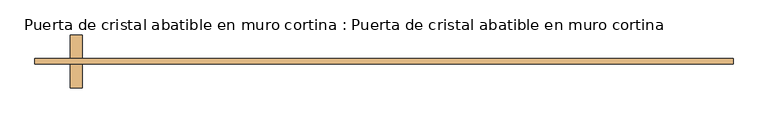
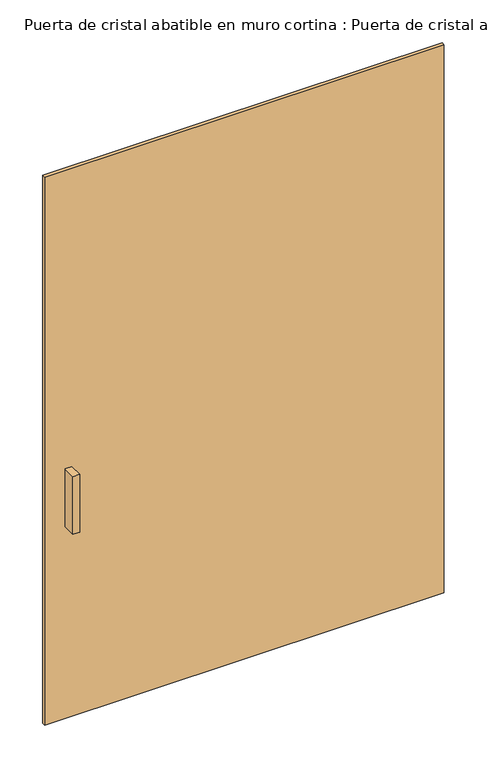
"""IFC4 building model written with IfcOpenShell, lengths in millimetres: door geometry, Puerta de cristal abatible en muro cortina : Puerta de cristal abatible en muro cortina."""

from ifc_helpers import new_model, si_unit, frame, origin, origin_with_axes, place, context, project, spatial, polyline, outline, extrude, source, transform, mapped, element, save


def puerta_de_cristal_abatible_en_muro_cortina_puerta_de_cristal_e47abdd4(model_context):
    return source(origin(), model_context, "Body", "SweptSolid", [
        extrude(outline(polyline([(-648.4, -12.5), (-673.8, -12.5), (-673.8, 38.3), (-648.4, 38.3), (-648.4, -12.5)])), frame((0.0, 0.0, 762.0), z_axis=(0.0, 0.0, 1.0), x_axis=(1.0, 0.0, 0.0)), (0.0, 0.0, 1.0), 228.6),
        extrude(outline(polyline([(-673.8, 101.8), (-648.4, 101.8), (-648.4, 51.0), (-673.8, 51.0), (-673.8, 101.8)])), frame((0.0, 0.0, 762.0), z_axis=(0.0, 0.0, 1.0), x_axis=(1.0, 0.0, 0.0)), (0.0, 0.0, 1.0), 228.6),
        extrude(outline(polyline([(750.0, 51.0), (750.0, 38.3), (-750.0, 38.3), (-750.0, 51.0), (750.0, 51.0)])), origin_with_axes(), (0.0, 0.0, 1.0), 2175.0),
    ])


if __name__ == "__main__":
    model = new_model("IFC4")
    model_context = context("Model", 3, world=origin())
    ifc_project = project(units=[si_unit("LENGTHUNIT", "METRE", prefix="MILLI")], contexts=[model_context])
    site = spatial("IfcSite", under=ifc_project)
    building = spatial("IfcBuilding", under=site)
    placement = place(None, origin())
    puerta_de_cristal_abatible_en_muro_cortina_puerta_de_cristal_shape = puerta_de_cristal_abatible_en_muro_cortina_puerta_de_cristal_e47abdd4(model_context)
    element("IfcDoor", 1, ObjectType="Puerta de cristal abatible en muro cortina : Puerta de cristal abatible en muro cortina", at=placement, inside=building, context=model_context, shape_type="MappedRepresentation", body=[
        mapped(puerta_de_cristal_abatible_en_muro_cortina_puerta_de_cristal_shape, transform((0.0, 0.0, 0.0), x_axis=(1.0, 0.0, 0.0), y_axis=(0.0, 1.0, 0.0), z_axis=(0.0, 0.0, 1.0))),
    ])
    save(model, "model.ifc")
